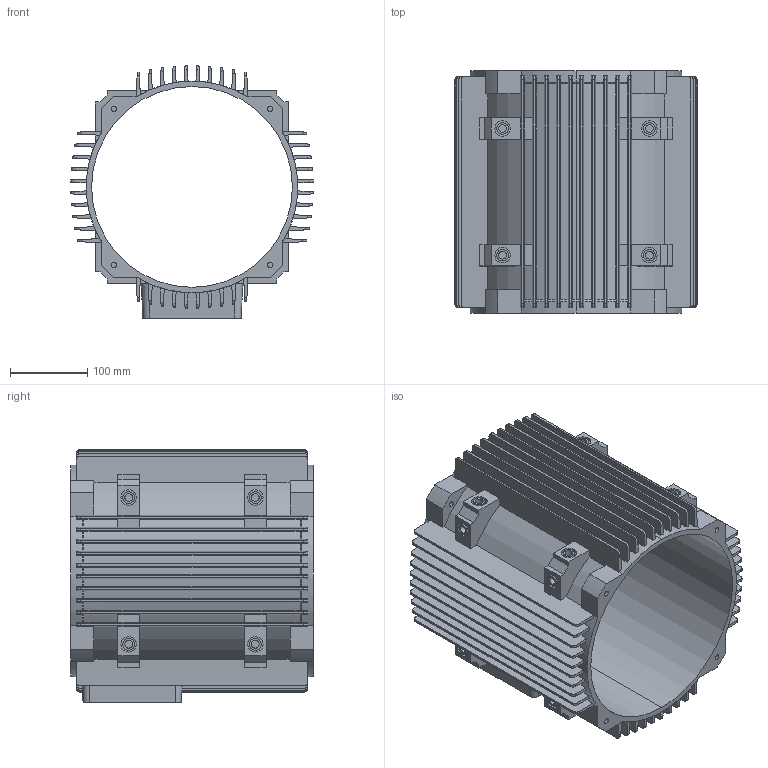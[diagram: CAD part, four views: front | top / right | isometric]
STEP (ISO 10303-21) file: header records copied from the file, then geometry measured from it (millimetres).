
FILE_DESCRIPTION (( 'STEP AP203' ), '1' );
FILE_NAME ('160L.STEP', '2023-02-21T10:23:02', ( '' ), ( '' ), 'SwSTEP 2.0', 'SolidWorks 2018', '' );
FILE_SCHEMA (( 'CONFIG_CONTROL_DESIGN' ));
Length unit declared in the file: millimetre
Products named in the file (1): 160L
Bounding box: 313.76 x 314 x 326.88 mm (x, y, z)
Volume: 3243744.7 mm3; surface area: 1195223.4 mm2
Topology: 1 solids, 1 shells, 794 faces, 2259 edges, 1504 vertices
Faces by surface type: plane 453, cylinder 270, cone 71
Entity records: 26186 total; most frequent: CARTESIAN_POINT 5630, ORIENTED_EDGE 4518, DIRECTION 4071, EDGE_CURVE 2259, VERTEX_POINT 1504, VECTOR 1401, LINE 1401, AXIS2_PLACEMENT_3D 1335
